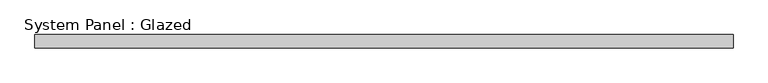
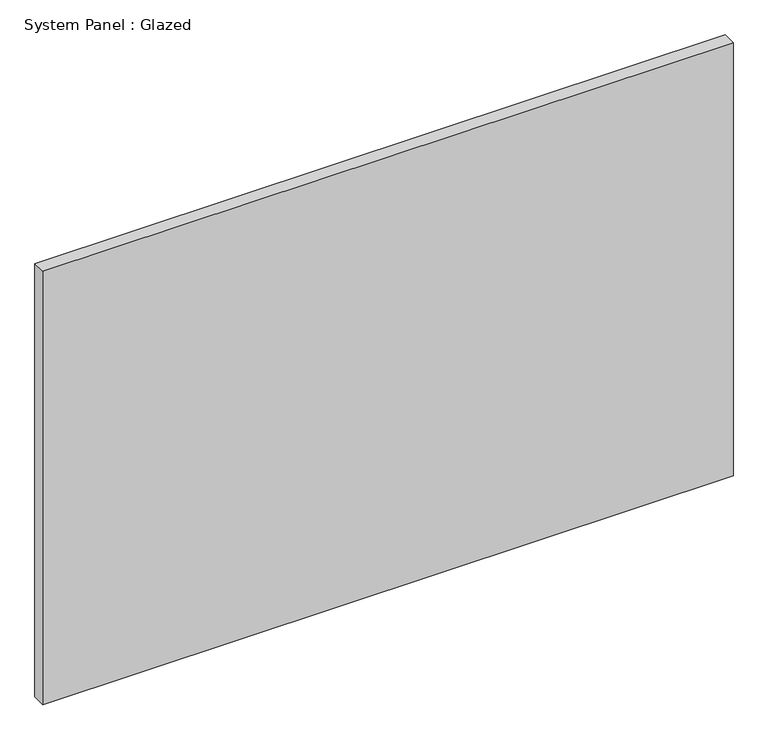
"""IFC4 building model written with IfcOpenShell, lengths in millimetres: plate geometry, System Panel : Glazed."""

from ifc_helpers import new_model, si_unit, origin, origin_with_axes, place, context, project, spatial, polyline, outline, extrude, source, transform, mapped, element, save


def system_panel_glazed_8e20a8fe(model_context):
    return source(origin(), model_context, "Body", "SweptSolid", [
        extrude(outline(polyline([(656.9445429, 19.05), (-656.9445429, 19.05), (-656.9445429, 44.45), (656.9445429, 44.45), (656.9445429, 19.05)])), origin_with_axes(), (0.0, 0.0, 1.0), 871.864222),
    ])


if __name__ == "__main__":
    model = new_model("IFC4")
    model_context = context("Model", 3, world=origin())
    ifc_project = project(units=[si_unit("LENGTHUNIT", "METRE", prefix="MILLI")], contexts=[model_context])
    site = spatial("IfcSite", under=ifc_project)
    building = spatial("IfcBuilding", under=site)
    placement = place(None, origin())
    system_panel_glazed_shape = system_panel_glazed_8e20a8fe(model_context)
    element("IfcPlate", 1, ObjectType="System Panel : Glazed", at=placement, inside=building, context=model_context, shape_type="MappedRepresentation", body=[
        mapped(system_panel_glazed_shape, transform((0.0, 0.0, 0.0), x_axis=(1.0, 0.0, 0.0), y_axis=(0.0, 1.0, 0.0), z_axis=(0.0, 0.0, 1.0))),
    ])
    save(model, "model.ifc")
